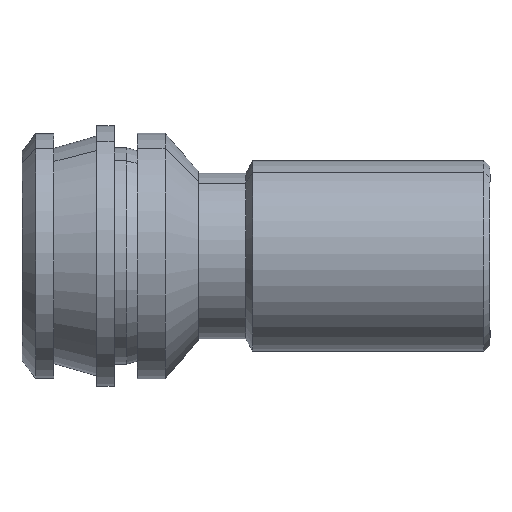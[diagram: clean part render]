
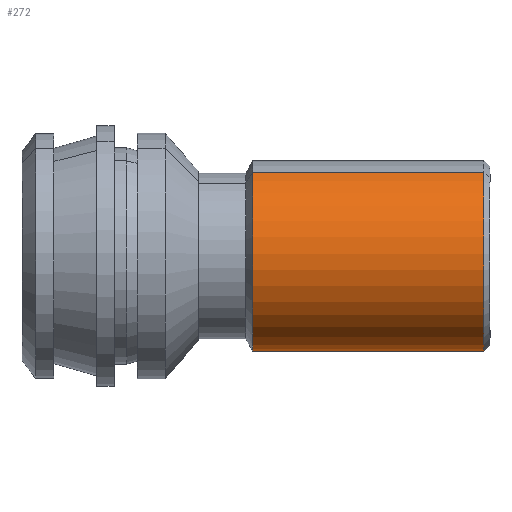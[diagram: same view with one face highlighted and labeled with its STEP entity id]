
A CAD part, top view. The second image highlights one B-rep face of the part: STEP entity #272.
In plain terms, the highlighted free-form (B-spline) face has degree [1, 2] with [2, 5] control points.
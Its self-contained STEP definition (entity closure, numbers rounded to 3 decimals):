
#272=ADVANCED_FACE('',(#679),#680,.T.);
#502=VERTEX_POINT('',#918);
#506=VERTEX_POINT('',#922);
#508=EDGE_CURVE('',#506,#502,#924,.T.);
#514=VERTEX_POINT('',#930);
#516=VERTEX_POINT('',#932);
#518=EDGE_CURVE('',#514,#516,#934,.T.);
#520=EDGE_CURVE('',#514,#506,#936,.T.);
#522=EDGE_CURVE('',#516,#502,#938,.T.);
#679=FACE_OUTER_BOUND('',#1563,.T.);
#680=(B_SPLINE_SURFACE(1,2,((#1565,#1566,#1567,#1568,#1569),(#1570,#1571,#1572,#1573,#1574)),.UNSPECIFIED.,.F.,.F.,.F.)B_SPLINE_SURFACE_WITH_KNOTS((2,2),(3,2,3),(0.0,1.0),(0.0,0.5,1.0),.UNSPECIFIED.)RATIONAL_B_SPLINE_SURFACE(((1.0,0.707,1.0,0.707,1.0),(1.0,0.707,1.0,0.707,1.0)))BOUNDED_SURFACE()REPRESENTATION_ITEM('')GEOMETRIC_REPRESENTATION_ITEM()SURFACE());
#918=CARTESIAN_POINT('',(-27.363,-9.653,-5.274));
#922=CARTESIAN_POINT('',(-27.363,9.653,5.274));
#924=CIRCLE('',#1972,11.0);
#930=CARTESIAN_POINT('',(-0.7,9.653,5.274));
#932=CARTESIAN_POINT('',(-0.7,-9.653,-5.274));
#934=CIRCLE('',#1986,11.0);
#936=LINE('',#1989,#1990);
#938=LINE('',#1993,#1994);
#1563=EDGE_LOOP('',(#2207,#2208,#2209,#2210));
#1565=CARTESIAN_POINT('',(-0.7,9.653,5.274));
#1566=CARTESIAN_POINT('',(-0.7,4.38,14.927));
#1567=CARTESIAN_POINT('',(-0.7,-5.274,9.653));
#1568=CARTESIAN_POINT('',(-0.7,-14.927,4.38));
#1569=CARTESIAN_POINT('',(-0.7,-9.653,-5.274));
#1570=CARTESIAN_POINT('',(-27.363,9.653,5.274));
#1571=CARTESIAN_POINT('',(-27.363,4.38,14.927));
#1572=CARTESIAN_POINT('',(-27.363,-5.274,9.653));
#1573=CARTESIAN_POINT('',(-27.363,-14.927,4.38));
#1574=CARTESIAN_POINT('',(-27.363,-9.653,-5.274));
#1972=AXIS2_PLACEMENT_3D('',#2382,#2383,#2384);
#1986=AXIS2_PLACEMENT_3D('',#2389,#2390,#2391);
#1989=CARTESIAN_POINT('',(-0.7,9.653,5.274));
#1990=VECTOR('',#2392,1.0);
#1993=CARTESIAN_POINT('',(-0.7,-9.653,-5.274));
#1994=VECTOR('',#2393,1.0);
#2207=ORIENTED_EDGE('',*,*,#518,.F.);
#2208=ORIENTED_EDGE('',*,*,#520,.T.);
#2209=ORIENTED_EDGE('',*,*,#508,.T.);
#2210=ORIENTED_EDGE('',*,*,#522,.F.);
#2382=CARTESIAN_POINT('',(-27.363,0.,0.));
#2383=DIRECTION('',(1.0,0.0,-0.0));
#2384=DIRECTION('',(0.0,0.878,0.479));
#2389=CARTESIAN_POINT('',(-0.7,0.,0.));
#2390=DIRECTION('',(1.0,0.,0.));
#2391=DIRECTION('',(0.,0.878,0.479));
#2392=DIRECTION('',(-1.0,0.0,0.0));
#2393=DIRECTION('',(-1.0,0.0,0.0));
